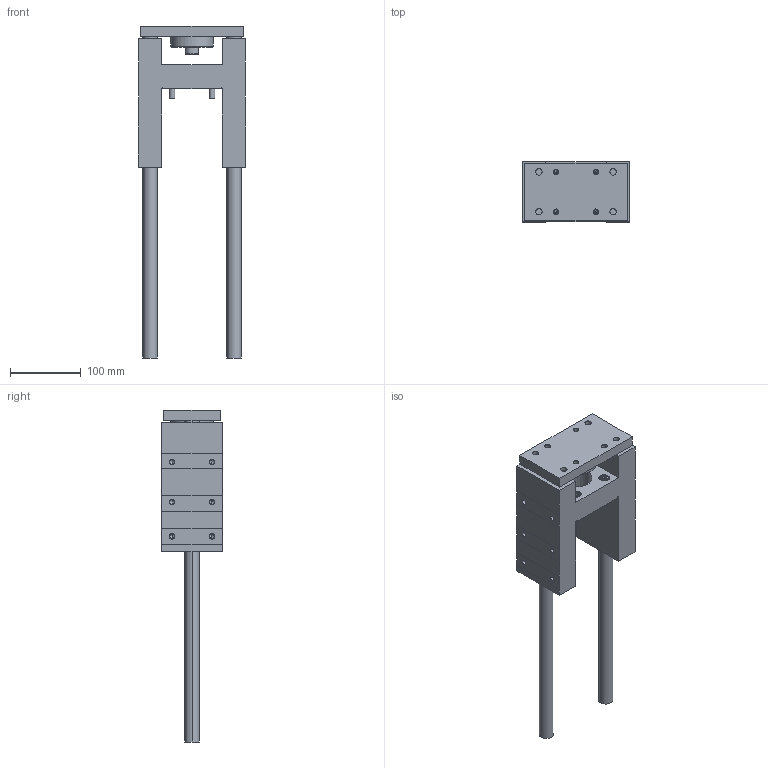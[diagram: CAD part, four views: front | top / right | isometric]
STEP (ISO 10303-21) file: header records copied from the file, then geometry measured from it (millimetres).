
FILE_DESCRIPTION (( 'STEP AP203' ), '1' );
FILE_NAME ('GB63-250.STEP', '2020-04-24T13:23:13', ( '' ), ( '' ), 'SwSTEP 2.0', 'SolidWorks 2019', '' );
FILE_SCHEMA (( 'CONFIG_CONTROL_DESIGN' ));
Length unit declared in the file: millimetre
Products named in the file (1): GB63-250
Bounding box: 152 x 85 x 470 mm (x, y, z)
Volume: 1581957.8 mm3; surface area: 245621.2 mm2
Topology: 6 solids, 6 shells, 363 faces, 814 edges, 462 vertices
Faces by surface type: cone 146, plane 115, cylinder 102
Entity records: 10453 total; most frequent: CARTESIAN_POINT 2284, DIRECTION 1812, ORIENTED_EDGE 1556, EDGE_CURVE 778, AXIS2_PLACEMENT_3D 702, VERTEX_POINT 462, EDGE_LOOP 428, LINE 408
